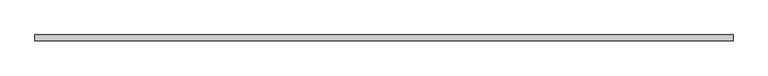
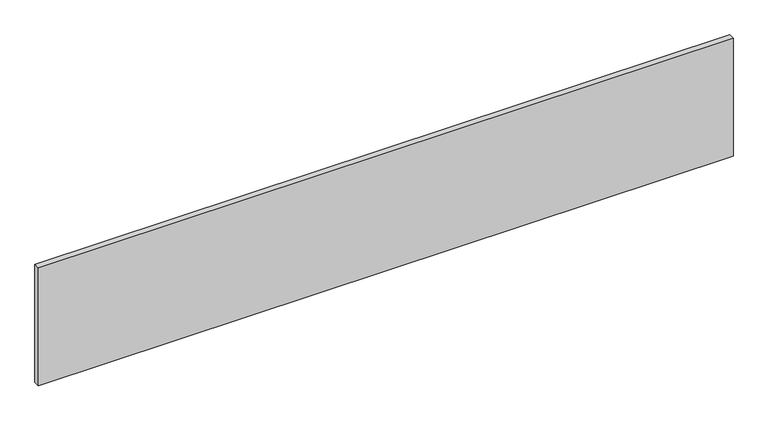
"""IFC4 building model written with IfcOpenShell, lengths in millimetres: plate geometry, Системная панель : С остеклением."""

from ifc_helpers import new_model, si_unit, origin, origin_with_axes, place, context, project, spatial, polyline, outline, extrude, source, transform, mapped, element, save


def plate_bd16dda6(model_context):
    return source(origin(), model_context, "Body", "SweptSolid", [
        extrude(outline(polyline([(1462.5, -49.5), (-1462.5, -49.5), (-1462.5, -24.5), (1462.5, -24.5), (1462.5, -49.5)])), origin_with_axes(), (0.0, 0.0, 1.0), 525.0),
    ])


if __name__ == "__main__":
    model = new_model("IFC4")
    model_context = context("Model", 3, world=origin())
    ifc_project = project(units=[si_unit("LENGTHUNIT", "METRE", prefix="MILLI")], contexts=[model_context])
    site = spatial("IfcSite", under=ifc_project)
    building = spatial("IfcBuilding", under=site)
    placement = place(None, origin())
    plate_shape = plate_bd16dda6(model_context)
    element("IfcPlate", 1, ObjectType="Системная панель : С остеклением", at=placement, inside=building, context=model_context, shape_type="MappedRepresentation", body=[
        mapped(plate_shape, transform((0.0, 0.0, 0.0), x_axis=(1.0, 0.0, 0.0), y_axis=(0.0, 1.0, 0.0), z_axis=(0.0, 0.0, 1.0))),
    ])
    save(model, "model.ifc")
